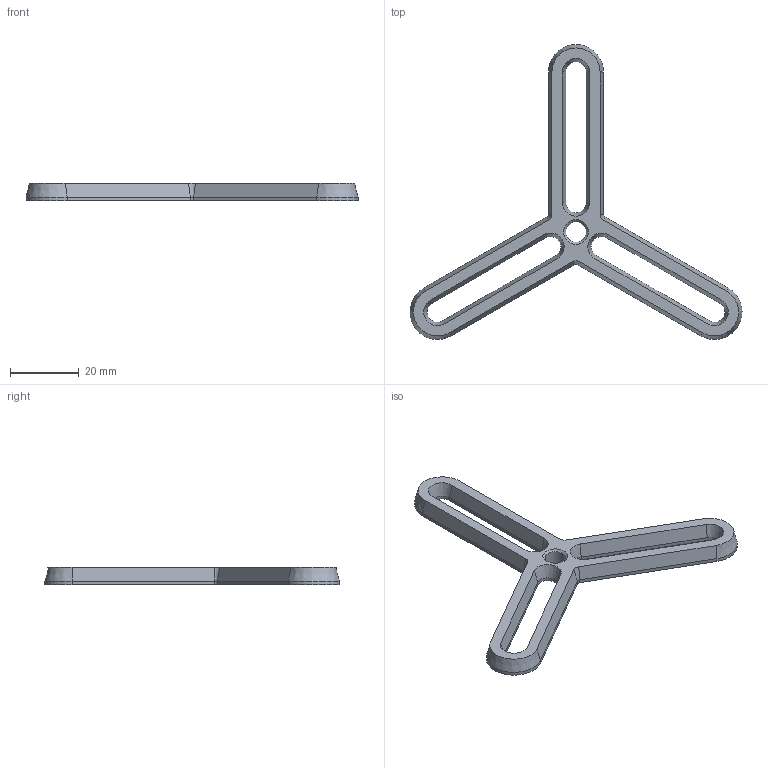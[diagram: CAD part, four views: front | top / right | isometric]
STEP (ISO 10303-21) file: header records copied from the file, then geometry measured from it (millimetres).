
FILE_DESCRIPTION(/* description */ (''),/* implementation_level */ '2;1');
FILE_NAME(/* name */ 'Intersection Brace.step',/* time_stamp */ '2025-09-09T10:18:29+08:00',/* author */ (''),/* organization */ (''),/* preprocessor_version */ 'ST-DEVELOPER v20.1',/* originating_system */ 'Autodesk Translation Framework v14.10.0.0',/* authorisation */ '');
FILE_SCHEMA (('AUTOMOTIVE_DESIGN { 1 0 10303 214 3 1 1 }'));
Length unit declared in the file: millimetre
Products named in the file (1): Hex Light
Bounding box: 96.75 x 85.93 x 5 mm (x, y, z)
Volume: 6922.3 mm3; surface area: 5892.5 mm2
Topology: 1 solids, 1 shells, 52 faces, 125 edges, 75 vertices
Faces by surface type: plane 26, cone 13, cylinder 13
Full cylindrical faces by diameter (mm): 6 x1
Entity records: 1572 total; most frequent: DIRECTION 270, CARTESIAN_POINT 253, ORIENTED_EDGE 250, EDGE_CURVE 125, AXIS2_PLACEMENT_3D 92, LINE 86, VECTOR 86, VERTEX_POINT 75
